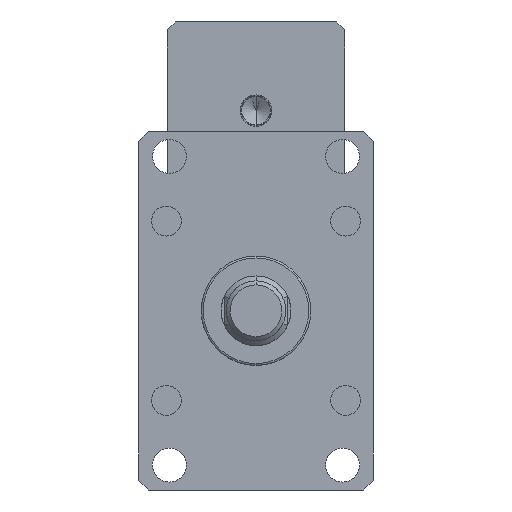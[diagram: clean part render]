
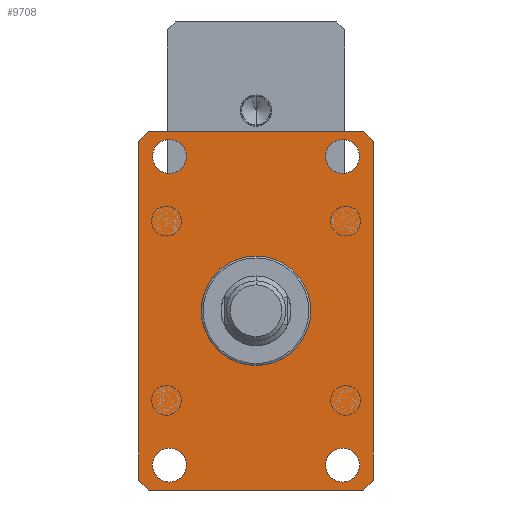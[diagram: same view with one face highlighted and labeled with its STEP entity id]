
A CAD part, front view. The second image highlights one B-rep face of the part: STEP entity #9708.
In plain terms, the highlighted planar face has unit normal (0, -1, 0).
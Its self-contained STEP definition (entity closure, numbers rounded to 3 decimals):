
#14 = CARTESIAN_POINT ( 'NONE',  ( 43.5, -55., -86. ) ) ;
#41 = VECTOR ( 'NONE', #8710, 1000. ) ;
#62 = CARTESIAN_POINT ( 'NONE',  ( 43.5, -55., 77.5 ) ) ;
#66 = CARTESIAN_POINT ( 'NONE',  ( -43.5, -55., -77.5 ) ) ;
#151 = DIRECTION ( 'NONE',  ( 1., 0., 0. ) ) ;
#347 = LINE ( 'NONE', #1002, #41 ) ;
#362 = ORIENTED_EDGE ( 'NONE', *, *, #4002, .T. ) ;
#467 = CARTESIAN_POINT ( 'NONE',  ( -43.5, -55., -77.5 ) ) ;
#703 = VERTEX_POINT ( 'NONE', #5670 ) ;
#715 = VERTEX_POINT ( 'NONE', #7131 ) ;
#805 = EDGE_LOOP ( 'NONE', ( #11244, #10302 ) ) ;
#816 = VECTOR ( 'NONE', #2234, 1000. ) ;
#989 = FACE_BOUND ( 'NONE', #5322, .T. ) ;
#1002 = CARTESIAN_POINT ( 'NONE',  ( -59., -55., -85. ) ) ;
#1070 = DIRECTION ( 'NONE',  ( 0., 0., -1. ) ) ;
#1073 = DIRECTION ( 'NONE',  ( 0., 0., 1. ) ) ;
#1166 = CARTESIAN_POINT ( 'NONE',  ( -54., -55., -90. ) ) ;
#1427 = LINE ( 'NONE', #9904, #9109 ) ;
#1456 = CIRCLE ( 'NONE', #7151, 8.5 ) ;
#1474 = DIRECTION ( 'NONE',  ( 0., 0., 1. ) ) ;
#1574 = AXIS2_PLACEMENT_3D ( 'NONE', #62, #6854, #1070 ) ;
#1698 = CARTESIAN_POINT ( 'NONE',  ( 43.5, -55., -77.5 ) ) ;
#1743 = EDGE_LOOP ( 'NONE', ( #6935, #6607 ) ) ;
#1818 = CARTESIAN_POINT ( 'NONE',  ( 43.5, -55., 69. ) ) ;
#1855 = DIRECTION ( 'NONE',  ( 0., 0., 1. ) ) ;
#2046 = VERTEX_POINT ( 'NONE', #7828 ) ;
#2210 = ORIENTED_EDGE ( 'NONE', *, *, #2520, .F. ) ;
#2220 = DIRECTION ( 'NONE',  ( 0., 1., 0. ) ) ;
#2234 = DIRECTION ( 'NONE',  ( 0., 0., 1. ) ) ;
#2296 = VERTEX_POINT ( 'NONE', #14 ) ;
#2520 = EDGE_CURVE ( 'NONE', #703, #8206, #6769, .T. ) ;
#2607 = EDGE_CURVE ( 'NONE', #3445, #6412, #5845, .T. ) ;
#2661 = DIRECTION ( 'NONE',  ( 0., 0., 1. ) ) ;
#2711 = DIRECTION ( 'NONE',  ( 0., 0., -1. ) ) ;
#2877 = EDGE_CURVE ( 'NONE', #2296, #7642, #1456, .T. ) ;
#3069 = LINE ( 'NONE', #5182, #5334 ) ;
#3103 = EDGE_CURVE ( 'NONE', #9882, #9154, #6437, .T. ) ;
#3158 = DIRECTION ( 'NONE',  ( 0.707, 0., 0.707 ) ) ;
#3244 = DIRECTION ( 'NONE',  ( -0.707, 0., 0.707 ) ) ;
#3363 = DIRECTION ( 'NONE',  ( 0., -1., 0. ) ) ;
#3373 = LINE ( 'NONE', #10902, #816 ) ;
#3417 = EDGE_CURVE ( 'NONE', #6412, #3445, #5974, .T. ) ;
#3427 = ORIENTED_EDGE ( 'NONE', *, *, #3765, .T. ) ;
#3430 = EDGE_CURVE ( 'NONE', #7642, #2296, #8522, .T. ) ;
#3445 = VERTEX_POINT ( 'NONE', #5122 ) ;
#3495 = EDGE_CURVE ( 'NONE', #9154, #9882, #10165, .T. ) ;
#3520 = FACE_OUTER_BOUND ( 'NONE', #8835, .T. ) ;
#3581 = EDGE_CURVE ( 'NONE', #9432, #3834, #4430, .T. ) ;
#3651 = EDGE_CURVE ( 'NONE', #3834, #12393, #8963, .T. ) ;
#3668 = AXIS2_PLACEMENT_3D ( 'NONE', #66, #6859, #1073 ) ;
#3671 = EDGE_CURVE ( 'NONE', #12393, #715, #3853, .T. ) ;
#3765 = EDGE_CURVE ( 'NONE', #715, #6244, #347, .T. ) ;
#3789 = ORIENTED_EDGE ( 'NONE', *, *, #3837, .T. ) ;
#3834 = VERTEX_POINT ( 'NONE', #11774 ) ;
#3837 = EDGE_CURVE ( 'NONE', #6244, #2046, #4586, .T. ) ;
#3853 = LINE ( 'NONE', #6580, #6112 ) ;
#3920 = EDGE_CURVE ( 'NONE', #2046, #11577, #1427, .T. ) ;
#3931 = EDGE_CURVE ( 'NONE', #11577, #4934, #3373, .T. ) ;
#4002 = EDGE_CURVE ( 'NONE', #4934, #9432, #3069, .T. ) ;
#4020 = CARTESIAN_POINT ( 'NONE',  ( 59., -55., -85. ) ) ;
#4061 = DIRECTION ( 'NONE',  ( 0., -1., 0. ) ) ;
#4078 = EDGE_CURVE ( 'NONE', #8206, #703, #7612, .T. ) ;
#4170 = CARTESIAN_POINT ( 'NONE',  ( -43.5, -55., -86. ) ) ;
#4280 = VECTOR ( 'NONE', #151, 1000. ) ;
#4430 = LINE ( 'NONE', #8367, #11867 ) ;
#4586 = LINE ( 'NONE', #1166, #4280 ) ;
#4780 = AXIS2_PLACEMENT_3D ( 'NONE', #9518, #7639, #1855 ) ;
#4934 = VERTEX_POINT ( 'NONE', #9814 ) ;
#5088 = DIRECTION ( 'NONE',  ( 0., -1., 0. ) ) ;
#5122 = CARTESIAN_POINT ( 'NONE',  ( -43.5, -55., 86. ) ) ;
#5180 = CARTESIAN_POINT ( 'NONE',  ( 54., -55., 90. ) ) ;
#5182 = CARTESIAN_POINT ( 'NONE',  ( 54., -55., 90. ) ) ;
#5322 = EDGE_LOOP ( 'NONE', ( #2210, #6443 ) ) ;
#5334 = VECTOR ( 'NONE', #3244, 1000. ) ;
#5376 = AXIS2_PLACEMENT_3D ( 'NONE', #10885, #5088, #11866 ) ;
#5383 = ORIENTED_EDGE ( 'NONE', *, *, #3417, .F. ) ;
#5670 = CARTESIAN_POINT ( 'NONE',  ( 43.5, -55., 86. ) ) ;
#5671 = ORIENTED_EDGE ( 'NONE', *, *, #3671, .T. ) ;
#5736 = EDGE_LOOP ( 'NONE', ( #5967, #5383 ) ) ;
#5845 = CIRCLE ( 'NONE', #6782, 8.5 ) ;
#5967 = ORIENTED_EDGE ( 'NONE', *, *, #2607, .F. ) ;
#5974 = CIRCLE ( 'NONE', #5376, 8.5 ) ;
#6111 = FACE_BOUND ( 'NONE', #805, .T. ) ;
#6112 = VECTOR ( 'NONE', #2711, 1000. ) ;
#6244 = VERTEX_POINT ( 'NONE', #10704 ) ;
#6412 = VERTEX_POINT ( 'NONE', #7135 ) ;
#6437 = CIRCLE ( 'NONE', #3668, 8.5 ) ;
#6443 = ORIENTED_EDGE ( 'NONE', *, *, #4078, .F. ) ;
#6580 = CARTESIAN_POINT ( 'NONE',  ( -59., -55., 85. ) ) ;
#6607 = ORIENTED_EDGE ( 'NONE', *, *, #2877, .T. ) ;
#6690 = AXIS2_PLACEMENT_3D ( 'NONE', #7995, #2220, #8962 ) ;
#6769 = CIRCLE ( 'NONE', #1574, 8.5 ) ;
#6772 = ORIENTED_EDGE ( 'NONE', *, *, #3931, .T. ) ;
#6782 = AXIS2_PLACEMENT_3D ( 'NONE', #9817, #4061, #10817 ) ;
#6854 = DIRECTION ( 'NONE',  ( 0., -1., 0. ) ) ;
#6859 = DIRECTION ( 'NONE',  ( 0., 1., 0. ) ) ;
#6935 = ORIENTED_EDGE ( 'NONE', *, *, #3430, .T. ) ;
#7131 = CARTESIAN_POINT ( 'NONE',  ( -59., -55., -85. ) ) ;
#7135 = CARTESIAN_POINT ( 'NONE',  ( -43.5, -55., 69. ) ) ;
#7151 = AXIS2_PLACEMENT_3D ( 'NONE', #1698, #8439, #2661 ) ;
#7243 = DIRECTION ( 'NONE',  ( 0., 1., 0. ) ) ;
#7488 = AXIS2_PLACEMENT_3D ( 'NONE', #9152, #3363, #10108 ) ;
#7612 = CIRCLE ( 'NONE', #7488, 8.5 ) ;
#7639 = DIRECTION ( 'NONE',  ( 0., 1., 0. ) ) ;
#7642 = VERTEX_POINT ( 'NONE', #8107 ) ;
#7660 = CARTESIAN_POINT ( 'NONE',  ( -43.5, -55., -69. ) ) ;
#7828 = CARTESIAN_POINT ( 'NONE',  ( 54., -55., -90. ) ) ;
#7995 = CARTESIAN_POINT ( 'NONE',  ( 43.5, -55., -77.5 ) ) ;
#8107 = CARTESIAN_POINT ( 'NONE',  ( 43.5, -55., -69. ) ) ;
#8206 = VERTEX_POINT ( 'NONE', #1818 ) ;
#8334 = ORIENTED_EDGE ( 'NONE', *, *, #3651, .T. ) ;
#8367 = CARTESIAN_POINT ( 'NONE',  ( -54., -55., 90. ) ) ;
#8439 = DIRECTION ( 'NONE',  ( 0., 1., 0. ) ) ;
#8522 = CIRCLE ( 'NONE', #6690, 8.5 ) ;
#8670 = FACE_BOUND ( 'NONE', #1743, .T. ) ;
#8710 = DIRECTION ( 'NONE',  ( 0.707, 0., -0.707 ) ) ;
#8835 = EDGE_LOOP ( 'NONE', ( #10715, #8334, #5671, #3427, #3789, #9009, #6772, #362 ) ) ;
#8962 = DIRECTION ( 'NONE',  ( 0., 0., 1. ) ) ;
#8963 = LINE ( 'NONE', #10403, #11250 ) ;
#9009 = ORIENTED_EDGE ( 'NONE', *, *, #3920, .T. ) ;
#9109 = VECTOR ( 'NONE', #3158, 1000. ) ;
#9152 = CARTESIAN_POINT ( 'NONE',  ( 43.5, -55., 77.5 ) ) ;
#9154 = VERTEX_POINT ( 'NONE', #7660 ) ;
#9243 = CARTESIAN_POINT ( 'NONE',  ( -59., -55., 85. ) ) ;
#9342 = DIRECTION ( 'NONE',  ( -1., 0., 0. ) ) ;
#9417 = DIRECTION ( 'NONE',  ( -0.707, 0., -0.707 ) ) ;
#9432 = VERTEX_POINT ( 'NONE', #5180 ) ;
#9518 = CARTESIAN_POINT ( 'NONE',  ( 59., -55., 90. ) ) ;
#9708 = ADVANCED_FACE ( 'NONE', ( #11865, #8670, #6111, #3520, #989 ), #11500, .F. ) ;
#9814 = CARTESIAN_POINT ( 'NONE',  ( 59., -55., 85. ) ) ;
#9817 = CARTESIAN_POINT ( 'NONE',  ( -43.5, -55., 77.5 ) ) ;
#9882 = VERTEX_POINT ( 'NONE', #4170 ) ;
#9904 = CARTESIAN_POINT ( 'NONE',  ( 59., -55., -85. ) ) ;
#10108 = DIRECTION ( 'NONE',  ( 0., 0., -1. ) ) ;
#10165 = CIRCLE ( 'NONE', #10569, 8.5 ) ;
#10302 = ORIENTED_EDGE ( 'NONE', *, *, #3103, .T. ) ;
#10403 = CARTESIAN_POINT ( 'NONE',  ( -59., -55., 85. ) ) ;
#10569 = AXIS2_PLACEMENT_3D ( 'NONE', #467, #7243, #1474 ) ;
#10704 = CARTESIAN_POINT ( 'NONE',  ( -54., -55., -90. ) ) ;
#10715 = ORIENTED_EDGE ( 'NONE', *, *, #3581, .T. ) ;
#10817 = DIRECTION ( 'NONE',  ( 0., 0., -1. ) ) ;
#10885 = CARTESIAN_POINT ( 'NONE',  ( -43.5, -55., 77.5 ) ) ;
#10902 = CARTESIAN_POINT ( 'NONE',  ( 59., -55., 85. ) ) ;
#11244 = ORIENTED_EDGE ( 'NONE', *, *, #3495, .T. ) ;
#11250 = VECTOR ( 'NONE', #9417, 1000. ) ;
#11500 = PLANE ( 'NONE',  #4780 ) ;
#11577 = VERTEX_POINT ( 'NONE', #4020 ) ;
#11774 = CARTESIAN_POINT ( 'NONE',  ( -54., -55., 90. ) ) ;
#11865 = FACE_BOUND ( 'NONE', #5736, .T. ) ;
#11866 = DIRECTION ( 'NONE',  ( 0., 0., -1. ) ) ;
#11867 = VECTOR ( 'NONE', #9342, 1000. ) ;
#12393 = VERTEX_POINT ( 'NONE', #9243 ) ;
